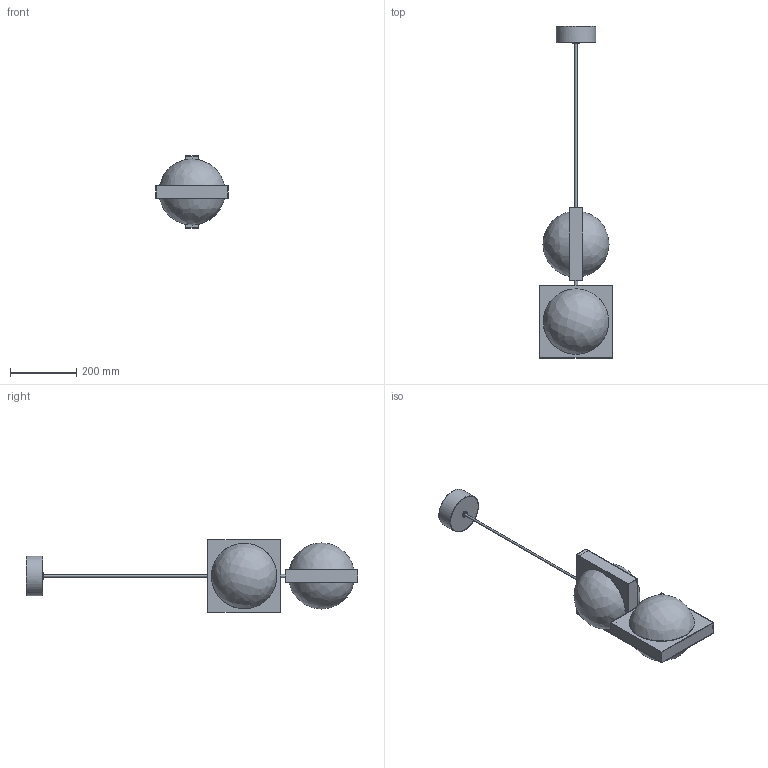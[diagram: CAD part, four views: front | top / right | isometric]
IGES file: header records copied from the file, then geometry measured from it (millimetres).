
Global section: file name: SOLSTICE DUO PENDANT; native system: Autodesk Inventor 2023; preprocessor: unknown; author: Peter Larkam; date: 20240715.153330; units: millimetre
Bounding box: 220 x 1003 x 220 mm (x, y, z)
Volume: 751136.3 mm3; surface area: 862071.7 mm2
Topology: 14 solids, 14 shells, 271 faces, 688 edges, 460 vertices
Faces by surface type: bspline 271
